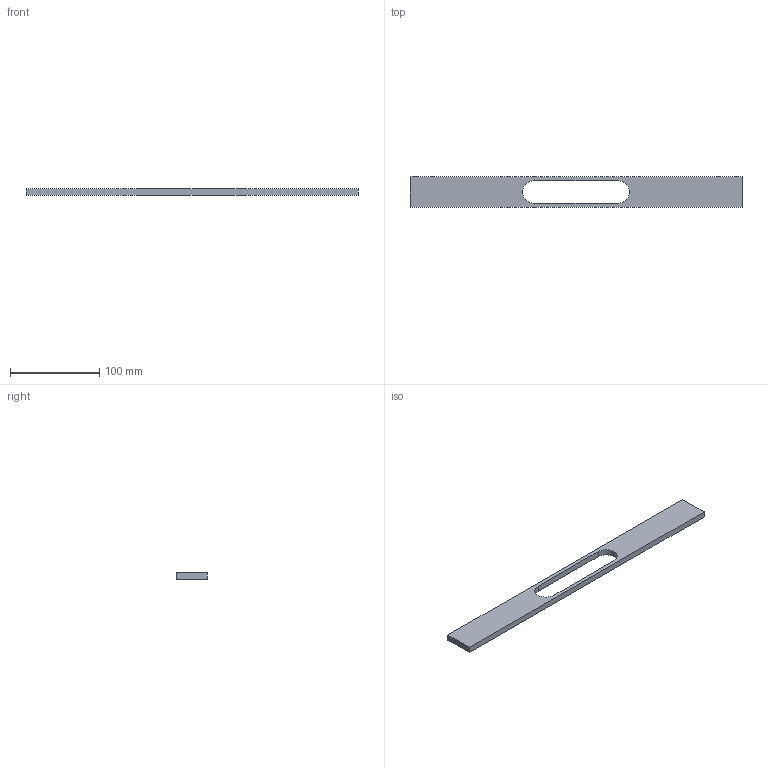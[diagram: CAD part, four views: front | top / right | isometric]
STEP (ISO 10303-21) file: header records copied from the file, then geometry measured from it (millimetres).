
FILE_DESCRIPTION( ( 'STEP AP214' ), '1' );
FILE_NAME( 'C:/Users/swati/Desktop/10-03-2016/11-03-2016/9064819/9064819.stp', ' ', ( ' ' ), ( ' ' ), 'PSStep 15.0.47', 'PARTsolutions', ' ' );
FILE_SCHEMA( ( 'AUTOMOTIVE_DESIGN { 1 0 10303 214 1 1 1 1 }' ) );
Length unit declared in the file: millimetre
Products named in the file (2): 95 ; _
Assembly tree (1 placements, depth 2):
  95 
    _
Bounding box: 372 x 34 x 7 mm (x, y, z)
Volume: 68072.8 mm3; surface area: 27530.2 mm2
Topology: 1 solids, 1 shells, 18 faces, 36 edges, 24 vertices
Faces by surface type: plane 12, cylinder 6
Full cylindrical faces by diameter (mm): 4 x4
Entity records: 638 total; most frequent: DIRECTION 84, CARTESIAN_POINT 76, ORIENTED_EDGE 64, AXIS2_PLACEMENT_3D 32, EDGE_CURVE 32, EDGE_LOOP 28, VERTEX_POINT 24, FACE_OUTER_BOUND 22
